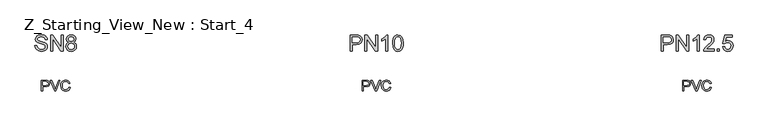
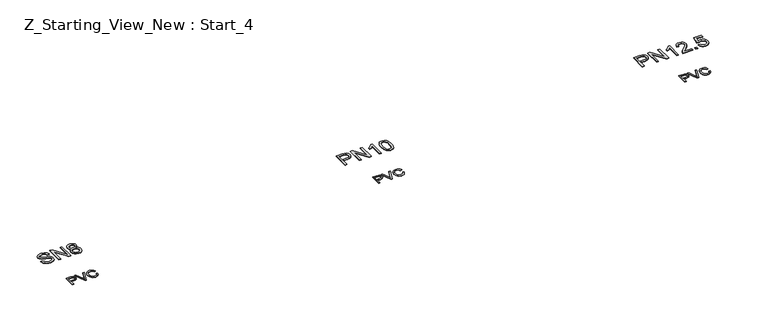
"""IFC4 building model written with IfcOpenShell, lengths in millimetres: pipe fitting geometry, Z_Starting_View_New : Start_4."""

import ifcopenshell
import ifcopenshell.guid

model = None  # the IFC model being written
_history = None  # IfcOwnerHistory: only IFC2X3 demands one
_inside = {}  # id of a spatial element -> (the spatial element, [elements in it])
_under = {}  # id of a project, library or spatial element -> (it, [spatial elements below it])
_declared = {}  # id of a project -> (the project, [libraries it declares])
_typed = {}  # id of a type object -> (the type object, [elements of that type])
_made_of = {}  # id of a material, layer set ... -> (it, [elements and type objects made of it])


def new_model(schema):
    """Start an empty IFC model of exactly this schema.

    Asked for "IFC4X3", IfcOpenShell would pick the latest addendum, in which some entities
    have other attributes; the version numbers below select the first issue.
    IFC2X3 requires an IfcOwnerHistory on every rooted entity: one is made here for all.
    """
    global model, _history
    if schema == "IFC4X3":
        model = ifcopenshell.file(schema_version=(4, 3, 0, 0))
    else:
        model = ifcopenshell.file(schema=schema)
    _inside.clear()
    _under.clear()
    _declared.clear()
    _typed.clear()
    _made_of.clear()
    _history = None
    if model.schema == "IFC2X3":
        org = make("IfcOrganization", Name="unknown")
        user = make(
            "IfcPersonAndOrganization",
            ThePerson=make("IfcPerson", FamilyName="unknown"),
            TheOrganization=org,
        )
        app = make(
            "IfcApplication",
            ApplicationDeveloper=org,
            Version="unknown",
            ApplicationFullName="unknown",
            ApplicationIdentifier="unknown",
        )
        _history = make(
            "IfcOwnerHistory",
            OwningUser=user,
            OwningApplication=app,
            ChangeAction="ADDED",
            CreationDate=0,
        )
    return model


def make(cls, **values):
    """One entity of the class cls with the attributes given. An attribute that is None is left unset."""
    return model.create_entity(
        cls, **{name: value for name, value in values.items() if value is not None}
    )


def rooted(cls, **values):
    """An entity with a GlobalId (a new one), such as an element, a storey or a relation."""
    return make(cls, GlobalId=ifcopenshell.guid.new(), OwnerHistory=_history, **values)


def si_unit(unit_type, name, prefix=None):
    """IfcSIUnit, for example si_unit("LENGTHUNIT", "METRE", prefix="MILLI")."""
    return make("IfcSIUnit", UnitType=unit_type, Prefix=prefix, Name=name)


def assignment(units):
    """IfcUnitAssignment: the units of a project."""
    return None if units is None else make("IfcUnitAssignment", Units=units)


def point(xyz):
    """IfcCartesianPoint."""
    return None if xyz is None else make("IfcCartesianPoint", Coordinates=xyz)


def direction(xyz):
    """IfcDirection."""
    return None if xyz is None else make("IfcDirection", DirectionRatios=xyz)


def frame(location, z_axis=None, x_axis=None):
    """IfcAxis2Placement3D, a coordinate frame: its origin and axes. An axis left out is left unset."""
    return make(
        "IfcAxis2Placement3D",
        Location=point(location),
        Axis=direction(z_axis),
        RefDirection=direction(x_axis),
    )


def origin():
    """The frame at (0, 0, 0) with its axes left unset."""
    return frame((0.0, 0.0, 0.0))


def origin_with_axes():
    """The frame at (0, 0, 0) with the z axis (0, 0, 1) and the x axis (1, 0, 0) written out."""
    return frame((0.0, 0.0, 0.0), z_axis=(0.0, 0.0, 1.0), x_axis=(1.0, 0.0, 0.0))


def place(relative_to, where):
    """IfcLocalPlacement: puts the frame where relative to a parent placement (None: the world)."""
    return make(
        "IfcLocalPlacement", PlacementRelTo=relative_to, RelativePlacement=where
    )


def context(
    kind, dimensions, precision=None, world=None, true_north=None, identifier=None
):
    """IfcGeometricRepresentationContext, for example the 3D "Model" context."""
    return make(
        "IfcGeometricRepresentationContext",
        ContextIdentifier=identifier,
        ContextType=kind,
        CoordinateSpaceDimension=dimensions,
        Precision=precision,
        WorldCoordinateSystem=world,
        TrueNorth=true_north,
    )


def project(units=None, contexts=None):
    """IfcProject with its units and contexts."""
    return rooted(
        "IfcProject",
        Name="project",
        RepresentationContexts=contexts,
        UnitsInContext=assignment(units),
    )


def spatial(cls, under=None, at=None, **own):
    """A site, building, storey or space (cls), placed at a placement, below another one or the project."""
    s = rooted(cls, ObjectPlacement=at, **own)
    if under is not None:
        _under.setdefault(under.id(), (under, []))[1].append(s)
    return s


def polyline(points):
    """IfcPolyline through the points."""
    return make("IfcPolyline", Points=[point(p) for p in points])


def outline(outer, holes=None, kind="AREA"):
    """IfcArbitraryClosedProfileDef: a profile drawn as a closed curve; with holes, ...WithVoids."""
    if holes is None:
        return make("IfcArbitraryClosedProfileDef", ProfileType=kind, OuterCurve=outer)
    return make(
        "IfcArbitraryProfileDefWithVoids",
        ProfileType=kind,
        OuterCurve=outer,
        InnerCurves=holes,
    )


def extrude(swept, where, along, depth):
    """IfcExtrudedAreaSolid: the profile swept, set in the frame where, extruded along a direction by depth."""
    return make(
        "IfcExtrudedAreaSolid",
        SweptArea=swept,
        Position=where,
        ExtrudedDirection=direction(along),
        Depth=depth,
    )


def shape(context_of_items, identifier, shape_type, items):
    """IfcShapeRepresentation: the items that make up one representation, for example the "Body"."""
    return make(
        "IfcShapeRepresentation",
        ContextOfItems=context_of_items,
        RepresentationIdentifier=identifier,
        RepresentationType=shape_type,
        Items=items,
    )


def source(mapping_origin, context_of_items, identifier, shape_type, items):
    """IfcRepresentationMap: a shape defined once, which mapped items show again and again."""
    return make(
        "IfcRepresentationMap",
        MappingOrigin=mapping_origin,
        MappedRepresentation=shape(context_of_items, identifier, shape_type, items),
    )


def transform(
    local_origin,
    x_axis=None,
    y_axis=None,
    z_axis=None,
    scale=None,
    scale2=None,
    scale3=None,
    uniform=True,
):
    """IfcCartesianTransformationOperator3D, or its non-uniform kind. x_axis, y_axis, z_axis: its Axis1, 2, 3."""
    if uniform:
        return make(
            "IfcCartesianTransformationOperator3D",
            Axis1=direction(x_axis),
            Axis2=direction(y_axis),
            LocalOrigin=point(local_origin),
            Scale=scale,
            Axis3=direction(z_axis),
        )
    return make(
        "IfcCartesianTransformationOperator3DnonUniform",
        Axis1=direction(x_axis),
        Axis2=direction(y_axis),
        LocalOrigin=point(local_origin),
        Scale=scale,
        Axis3=direction(z_axis),
        Scale2=scale2,
        Scale3=scale3,
    )


def mapped(mapping_source, mapping_target):
    """IfcMappedItem: shows the shape of a source again, moved by a transform."""
    return make(
        "IfcMappedItem", MappingSource=mapping_source, MappingTarget=mapping_target
    )


def made_of(thing, what):
    """Note that an element or type object is made of a material, layer set ...; save() writes the relation."""
    if what is not None:
        _made_of.setdefault(what.id(), (what, []))[1].append(thing)
    return thing


def element(
    cls,
    number,
    at=None,
    inside=None,
    cuts=None,
    type_object=None,
    material=None,
    context=None,
    identifier="Body",
    shape_type=None,
    held_by="IfcProductDefinitionShape",
    body=None,
    shapes=None,
    **own,
):
    """One element of the class cls, such as IfcWall. Its Tag is "e" and its number.

    at: its placement. inside: the storey or other place that contains it. cuts: it is an
    opening in that element (IfcRelVoidsElement). A single representation is given by context,
    identifier, shape_type and body (its items); several are given by shapes. held_by: the class
    of the entity that holds the representations. save() writes the other relations.
    """
    e = rooted(cls, Tag="e%d" % number, ObjectPlacement=at, **own)
    if body is not None:
        shapes = [shape(context, identifier, shape_type, body)]
    if shapes is not None:
        e.Representation = make(held_by, Representations=shapes)
    if inside is not None:
        _inside.setdefault(inside.id(), (inside, []))[1].append(e)
    if cuts is not None:
        rooted(
            "IfcRelVoidsElement", RelatingBuildingElement=cuts, RelatedOpeningElement=e
        )
    if type_object is not None:
        _typed.setdefault(type_object.id(), (type_object, []))[1].append(e)
    return made_of(e, material)


def aggregate(whole, parts):
    """IfcRelAggregates: a whole, such as a stair, and the parts it consists of."""
    return rooted("IfcRelAggregates", RelatingObject=whole, RelatedObjects=parts)


def save(model, path):
    """Write the relations noted so far, then the file.

    IfcRelAggregates (storeys below a building ...), IfcRelContainedInSpatialStructure (elements
    in a storey), IfcRelDefinesByType, IfcRelAssociatesMaterial and IfcRelDeclares: one each for
    every whole, place, type object, material and project.
    """
    for whole, parts in _under.values():
        aggregate(whole, parts)
    for where, things in _inside.values():
        rooted(
            "IfcRelContainedInSpatialStructure",
            RelatedElements=things,
            RelatingStructure=where,
        )
    for kind, things in _typed.values():
        rooted("IfcRelDefinesByType", RelatedObjects=things, RelatingType=kind)
    for what, things in _made_of.values():
        rooted("IfcRelAssociatesMaterial", RelatedObjects=things, RelatingMaterial=what)
    for by, libraries in _declared.values():
        rooted("IfcRelDeclares", RelatingContext=by, RelatedDefinitions=libraries)
    model.write(path)


def z_starting_view_new_start_4_c739c676(model_context):
    return source(origin(), model_context, "Body", "SweptSolid", [
        extrude(outline(polyline([(28403.3325071, 7445.7857303), (28403.3325071, 7596.4701955), (28459.1769939, 7596.4701955), (28481.691372, 7595.0354557), (28499.9935013, 7587.9905155), (28511.8576956, 7573.4223885), (28516.345856, 7552.8761791), (28513.315428, 7535.1166757), (28504.2241442, 7520.3186225), (28487.2233975, 7510.3306263), (28460.4645809, 7507.0012943), (28422.1680652, 7507.0012943), (28422.1680652, 7445.7857303), (28403.3325071, 7445.7857303)]), holes=[polyline([(28422.1680652, 7525.8368524), (28461.5682269, 7525.8368524), (28478.2700695, 7527.5658978), (28489.3065293, 7532.7530339), (28495.4593557, 7541.0763641), (28497.5102978, 7552.2139915), (28492.6726496, 7567.8121881), (28479.9623267, 7576.3470504), (28461.1267685, 7577.6346373), (28422.1680652, 7577.6346373), (28422.1680652, 7525.8368524)])]), origin_with_axes(), (0.0, 0.0, 1.0), 5.0),
        extrude(outline(polyline([(28542.2447484, 7445.7857303), (28542.2447484, 7596.4701955), (28562.4046818, 7596.4701955), (28641.1314287, 7477.0924881), (28641.1314287, 7596.4701955), (28659.9669869, 7596.4701955), (28659.9669869, 7445.7857303), (28639.8070536, 7445.7857303), (28561.0803066, 7565.2002259), (28561.0803066, 7445.7857303), (28542.2447484, 7445.7857303)])), origin_with_axes(), (0.0, 0.0, 1.0), 5.0),
        extrude(outline(polyline([(28756.4992224, 7445.7857303), (28737.6636643, 7445.7857303), (28737.6636643, 7563.2136631), (28719.8213875, 7550.5033402), (28699.992548, 7540.9935906), (28699.992548, 7558.7990792), (28727.6020917, 7576.4206268), (28744.3591166, 7596.4701955), (28756.4992224, 7596.4701955), (28756.4992224, 7445.7857303)])), origin_with_axes(), (0.0, 0.0, 1.0), 5.0),
        extrude(outline(polyline([(28897.7659086, 7464.6212884), (28897.7659086, 7445.7857303), (28798.8792283, 7445.7857303), (28800.9025792, 7458.7719647), (28812.3437093, 7478.7663511), (28835.9249452, 7500.6001475), (28868.4457136, 7531.9804817), (28874.5433576, 7542.7962124), (28876.5759057, 7553.3176375), (28874.6583208, 7562.7492121), (28868.9055661, 7570.5896971), (28860.0626026, 7575.8734023), (28848.8743914, 7577.6346373), (28837.1251602, 7575.914789), (28827.9970882, 7570.755244), (28822.1063777, 7562.5606726), (28820.0692312, 7551.7357449), (28801.233673, 7554.0901896), (28805.8000083, 7572.3095455), (28815.6730414, 7585.6176766), (28830.3377374, 7593.7570658), (28849.2790616, 7596.4701955), (28868.3583416, 7593.4535631), (28882.9954465, 7584.403666), (28892.3074595, 7570.8840027), (28895.4114638, 7554.4580716), (28892.0637377, 7536.5974008), (28880.9353073, 7518.1297246), (28853.951163, 7492.3228027), (28832.2829134, 7474.2046144), (28823.7848393, 7464.6212884), (28897.7659086, 7464.6212884)])), origin_with_axes(), (0.0, 0.0, 1.0), 5.0),
        extrude(outline(polyline([(28926.0192458, 7445.7857303), (28926.0192458, 7464.6212884), (28944.854804, 7464.6212884), (28944.854804, 7445.7857303), (28926.0192458, 7445.7857303)])), origin_with_axes(), (0.0, 0.0, 1.0), 5.0),
        extrude(outline(polyline([(28975.462586, 7485.8112913), (28994.2981441, 7488.1657361), (28997.7562349, 7476.8579633), (29003.7894996, 7468.7599609), (29012.3703471, 7463.890123), (29023.4711863, 7462.2668436), (29036.9724556, 7464.5247194), (29047.0892104, 7471.2983466), (29053.4075837, 7481.8059761), (29055.5137081, 7495.2658586), (29053.5409409, 7507.9393934), (29047.6226393, 7517.6330839), (29037.7128181, 7523.7859103), (29023.7654919, 7525.8368524), (29007.2291962, 7522.5627027), (28996.6525889, 7514.0646286), (28977.8170307, 7516.4190733), (28994.2981441, 7594.1157507), (29067.285932, 7594.1157507), (29067.285932, 7575.2801926), (29009.5284587, 7575.2801926), (29001.471843, 7533.7831035), (29014.927127, 7541.9500838), (29029.0262045, 7544.6724106), (29046.6247594, 7541.2970933), (29061.2342731, 7531.1711413), (29071.070518, 7515.7384916), (29074.3492663, 7496.443081), (29071.3970133, 7477.6075228), (29062.5402542, 7461.4942915), (29045.5808942, 7447.947037), (29023.3976099, 7443.4312855), (29004.8977441, 7446.3329547), (28990.1594717, 7455.0379624), (28980.0565124, 7468.5346331), (28975.462586, 7485.8112913)])), origin_with_axes(), (0.0, 0.0, 1.0), 5.0),
        extrude(outline(polyline([(25490.4469635, 7445.7857303), (25490.4469635, 7596.4701955), (25546.2914504, 7596.4701955), (25568.8058285, 7595.0354557), (25587.1079578, 7587.9905155), (25598.9721521, 7573.4223885), (25603.4603124, 7552.8761791), (25600.4298845, 7535.1166757), (25591.3386007, 7520.3186225), (25574.337854, 7510.3306263), (25547.5790374, 7507.0012943), (25509.2825217, 7507.0012943), (25509.2825217, 7445.7857303), (25490.4469635, 7445.7857303)]), holes=[polyline([(25509.2825217, 7525.8368524), (25548.6826834, 7525.8368524), (25565.3845259, 7527.5658978), (25576.4209858, 7532.7530339), (25582.5738122, 7541.0763641), (25584.6247543, 7552.2139915), (25579.787106, 7567.8121881), (25567.0767831, 7576.3470504), (25548.241225, 7577.6346373), (25509.2825217, 7577.6346373), (25509.2825217, 7525.8368524)])]), origin_with_axes(), (0.0, 0.0, 1.0), 5.0),
        extrude(outline(polyline([(25629.3592049, 7445.7857303), (25629.3592049, 7596.4701955), (25649.5191382, 7596.4701955), (25728.2458852, 7477.0924881), (25728.2458852, 7596.4701955), (25747.0814434, 7596.4701955), (25747.0814434, 7445.7857303), (25726.92151, 7445.7857303), (25648.1947631, 7565.2002259), (25648.1947631, 7445.7857303), (25629.3592049, 7445.7857303)])), origin_with_axes(), (0.0, 0.0, 1.0), 5.0),
        extrude(outline(polyline([(25843.6136789, 7445.7857303), (25824.7781207, 7445.7857303), (25824.7781207, 7563.2136631), (25806.935844, 7550.5033402), (25787.1070044, 7540.9935906), (25787.1070044, 7558.7990792), (25814.7165482, 7576.4206268), (25831.473573, 7596.4701955), (25843.6136789, 7596.4701955), (25843.6136789, 7445.7857303)])), origin_with_axes(), (0.0, 0.0, 1.0), 5.0),
        extrude(outline(polyline([(25888.3481295, 7519.9139523), (25889.7322855, 7544.0332156), (25893.8847535, 7563.2688454), (25900.7641468, 7577.9151474), (25910.3290787, 7588.266427), (25922.648527, 7594.4192534), (25937.7914697, 7596.4701955), (25959.790813, 7591.6141532), (25974.9843394, 7577.6162432), (25983.8135073, 7555.3225943), (25987.2348098, 7519.9139523), (25985.8644494, 7495.9326447), (25981.7533681, 7476.7430002), (25974.9153615, 7462.0829027), (25965.3642252, 7451.6902363), (25953.0171857, 7445.4960232), (25937.7914697, 7443.4312855), (25918.2201475, 7447.0181349), (25903.3577149, 7457.7786833), (25892.1005259, 7483.2637085), (25888.3481295, 7519.9139523)]), holes=[polyline([(25907.1836877, 7519.9507405), (25909.3909796, 7490.3224443), (25916.0128555, 7473.1745448), (25925.872093, 7464.9937689), (25937.7914697, 7462.2668436), (25949.7108463, 7465.002966), (25959.5700838, 7473.211333), (25966.1919597, 7490.3684296), (25968.3992517, 7519.9507405), (25966.2655361, 7548.9122506), (25959.8643894, 7566.1935073), (25950.023546, 7574.7743548), (25937.5707405, 7577.6346373), (25925.7801225, 7575.1146457), (25916.3071611, 7567.5546707), (25909.464556, 7549.1973591), (25907.1836877, 7519.9507405)])]), origin_with_axes(), (0.0, 0.0, 1.0), 5.0),
        extrude(outline(polyline([(22541.0675261, 7497.5835152), (22559.9030842, 7497.5835152), (22565.9731371, 7478.7295629), (22580.7987815, 7466.8101863), (22603.386736, 7462.2668436), (22623.0684228, 7465.7065403), (22635.7787457, 7475.1611076), (22639.9542064, 7487.7978541), (22636.8272094, 7499.5516839), (22624.024916, 7508.1049402), (22596.5993132, 7515.2970333), (22567.0767831, 7524.5860536), (22551.0555222, 7538.6023576), (22545.7764156, 7557.3275512), (22547.4088919, 7568.3594125), (22552.306321, 7578.6463128), (22560.3399441, 7587.3651161), (22571.3810025, 7593.6926864), (22599.3032459, 7598.8246403), (22629.1016875, 7593.4535631), (22640.5244235, 7586.8224902), (22648.9673152, 7577.6714255), (22654.3108012, 7566.5705863), (22656.4353197, 7554.0901896), (22637.5997616, 7554.0901896), (22634.1416708, 7565.3289846), (22626.9311837, 7573.4407826), (22615.6647976, 7578.3520072), (22600.0390099, 7579.9890821), (22584.0453401, 7578.3704013), (22573.0732596, 7573.514359), (22566.7272952, 7566.3682512), (22564.6119737, 7557.8793742), (22566.1110929, 7550.6412959), (22570.6084503, 7544.8195634), (22601.3633851, 7534.2981383), (22634.6934938, 7524.843571), (22645.4310496, 7518.010163), (22652.9220467, 7509.5764682), (22657.3228351, 7499.6344573), (22658.7897645, 7488.2761007), (22657.1021059, 7476.6648252), (22652.0391299, 7465.7433285), (22643.8077703, 7456.3439435), (22632.6149606, 7449.2990033), (22619.1550781, 7444.898215), (22604.1225, 7443.4312855), (22585.6686194, 7445.0131781), (22570.4796916, 7449.7588558), (22558.3809725, 7457.6867128), (22549.1977181, 7468.8151432), (22543.3024092, 7482.3715947), (22541.0675261, 7497.5835152)])), origin_with_axes(), (0.0, 0.0, 1.0), 5.0),
        extrude(outline(polyline([(22687.0431017, 7445.7857303), (22687.0431017, 7596.4701955), (22707.2030351, 7596.4701955), (22785.929782, 7477.0924881), (22785.929782, 7596.4701955), (22804.7653402, 7596.4701955), (22804.7653402, 7445.7857303), (22784.6054069, 7445.7857303), (22705.8786599, 7565.2002259), (22705.8786599, 7445.7857303), (22687.0431017, 7445.7857303)])), origin_with_axes(), (0.0, 0.0, 1.0), 5.0),
        extrude(outline(polyline([(22858.1082295, 7528.7799084), (22840.9465344, 7540.4785558), (22835.3731222, 7558.6887146), (22838.4081487, 7573.4131914), (22847.513228, 7585.5808884), (22861.6674878, 7593.7478687), (22879.8500554, 7596.4701955), (22898.1429876, 7593.6834894), (22912.4811884, 7585.323371), (22921.7518147, 7572.962536), (22924.8420234, 7558.1736798), (22919.3421876, 7540.4233735), (22902.6587391, 7528.7799084), (22914.2516205, 7522.8064245), (22922.6899138, 7514.0094463), (22927.8356632, 7502.812038), (22929.550913, 7489.6372641), (22926.1480045, 7471.6294404), (22915.9392791, 7456.7486137), (22900.1755356, 7446.7606176), (22880.1075728, 7443.4312855), (22860.03961, 7446.7744131), (22844.2758665, 7456.803796), (22834.0671411, 7471.827177), (22830.6642327, 7490.1522989), (22832.4484603, 7503.8375091), (22837.8011434, 7515.0946982), (22846.4463703, 7523.5375899), (22858.1082295, 7528.7799084)]), holes=[polyline([(22854.2086804, 7558.1368916), (22855.8779449, 7549.914729), (22860.8857386, 7543.3480354), (22869.0849085, 7539.043816), (22880.328302, 7537.6090763), (22891.3095796, 7539.034619), (22899.3845894, 7543.3112472), (22904.3509963, 7549.6572116), (22906.0064653, 7557.290763), (22904.295814, 7565.2140215), (22899.1638602, 7571.7669195), (22890.9784858, 7576.1677079), (22880.1075728, 7577.6346373), (22869.167682, 7576.1998976), (22860.9961032, 7571.8956782), (22855.9055361, 7565.586502), (22854.2086804, 7558.1368916)]), polyline([(22849.4997908, 7490.8144865), (22852.6451819, 7476.6326356), (22863.7736122, 7466.01924), (22880.2547256, 7462.2668436), (22893.0754131, 7464.2396108), (22902.6955273, 7470.1579124), (22908.7103979, 7479.1204376), (22910.7153548, 7490.2258753), (22908.6460186, 7501.5198525), (22902.4380099, 7510.6801142), (22892.5971665, 7516.7501671), (22879.6293262, 7518.7735181), (22866.9879812, 7516.7777583), (22857.464436, 7510.7904788), (22851.4909521, 7501.8049611), (22849.4997908, 7490.8144865)])]), origin_with_axes(), (0.0, 0.0, 1.0), 5.0),
        extrude(outline(polyline([(25602.2830901, 7070.7857303), (25602.2830901, 7171.2420404), (25639.512748, 7171.2420404), (25654.5223334, 7170.2855472), (25666.7237529, 7165.5889204), (25674.6332158, 7155.8768358), (25677.6253227, 7142.1793628), (25675.6050374, 7130.3396939), (25669.5441815, 7120.4743251), (25658.2103504, 7113.815661), (25640.3711393, 7111.5961063), (25614.8401288, 7111.5961063), (25614.8401288, 7070.7857303), (25602.2830901, 7070.7857303)]), holes=[polyline([(25614.8401288, 7124.153145), (25641.1069033, 7124.153145), (25659.5991049, 7128.7639327), (25663.7009891, 7134.3128195), (25665.0682839, 7141.7379044), (25661.8431851, 7152.1367021), (25653.3696365, 7157.8266103), (25640.8125977, 7158.6850016), (25614.8401288, 7158.6850016), (25614.8401288, 7124.153145)])]), origin_with_axes(), (0.0, 0.0, 1.0), 5.0),
        extrude(outline(polyline([(25724.5670652, 7070.7857303), (25684.5905551, 7171.2420404), (25698.0305107, 7171.2420404), (25724.7877944, 7098.8673892), (25730.2079225, 7082.5579541), (25735.5544742, 7098.8673892), (25762.3853344, 7171.2420404), (25775.8252899, 7171.2420404), (25737.5410369, 7070.7857303), (25724.5670652, 7070.7857303)])), origin_with_axes(), (0.0, 0.0, 1.0), 5.0),
        extrude(outline(polyline([(25858.132755, 7106.4948093), (25870.6897937, 7103.2574477), (25864.8956523, 7088.6249413), (25855.8028357, 7077.9349037), (25843.8589336, 7071.3958012), (25829.5115357, 7069.2161004), (25814.9464744, 7070.865438), (25803.3796513, 7075.8134509), (25794.5136953, 7083.8884607), (25788.0512349, 7094.9187891), (25782.7905224, 7121.7741748), (25784.2773788, 7136.4220096), (25788.7379479, 7149.0710188), (25795.939238, 7159.3195981), (25805.648257, 7166.7661428), (25817.1629634, 7171.3002884), (25829.7813159, 7172.8116703), (25843.5492995, 7170.8557643), (25854.9321816, 7164.9880465), (25863.5743428, 7155.5702674), (25869.1201639, 7142.9641777), (25856.5631251, 7139.9720708), (25846.2624293, 7155.4108519), (25829.2908065, 7160.2546315), (25809.645908, 7154.8835544), (25798.5481345, 7140.4625802), (25795.3475611, 7121.7987003), (25799.1367457, 7100.1672389), (25810.933495, 7086.3471387), (25828.260737, 7081.7731392), (25838.7423081, 7083.3305063), (25847.4764398, 7088.0026076), (25854.0707246, 7095.7403923), (25858.132755, 7106.4948093)])), origin_with_axes(), (0.0, 0.0, 1.0), 5.0),
        extrude(outline(polyline([(28602.2830901, 7070.7857303), (28602.2830901, 7171.2420404), (28639.512748, 7171.2420404), (28654.5223334, 7170.2855472), (28666.7237529, 7165.5889204), (28674.6332158, 7155.8768358), (28677.6253227, 7142.1793628), (28675.6050374, 7130.3396939), (28669.5441815, 7120.4743251), (28658.2103504, 7113.815661), (28640.3711393, 7111.5961063), (28614.8401288, 7111.5961063), (28614.8401288, 7070.7857303), (28602.2830901, 7070.7857303)]), holes=[polyline([(28614.8401288, 7124.153145), (28641.1069033, 7124.153145), (28659.5991049, 7128.7639327), (28663.7009891, 7134.3128195), (28665.0682839, 7141.7379044), (28661.8431851, 7152.1367021), (28653.3696365, 7157.8266103), (28640.8125977, 7158.6850016), (28614.8401288, 7158.6850016), (28614.8401288, 7124.153145)])]), origin_with_axes(), (0.0, 0.0, 1.0), 5.0),
        extrude(outline(polyline([(28724.5670652, 7070.7857303), (28684.5905551, 7171.2420404), (28698.0305107, 7171.2420404), (28724.7877944, 7098.8673892), (28730.2079225, 7082.5579541), (28735.5544742, 7098.8673892), (28762.3853344, 7171.2420404), (28775.8252899, 7171.2420404), (28737.5410369, 7070.7857303), (28724.5670652, 7070.7857303)])), origin_with_axes(), (0.0, 0.0, 1.0), 5.0),
        extrude(outline(polyline([(28858.132755, 7106.4948093), (28870.6897937, 7103.2574477), (28864.8956523, 7088.6249413), (28855.8028357, 7077.9349037), (28843.8589336, 7071.3958012), (28829.5115357, 7069.2161004), (28814.9464744, 7070.865438), (28803.3796514, 7075.8134509), (28794.5136953, 7083.8884607), (28788.0512349, 7094.9187891), (28782.7905224, 7121.7741748), (28784.2773788, 7136.4220096), (28788.7379479, 7149.0710188), (28795.939238, 7159.3195981), (28805.648257, 7166.7661428), (28817.1629634, 7171.3002884), (28829.7813159, 7172.8116703), (28843.5492995, 7170.8557643), (28854.9321816, 7164.9880465), (28863.5743428, 7155.5702674), (28869.1201639, 7142.9641777), (28856.5631251, 7139.9720708), (28846.2624293, 7155.4108519), (28829.2908065, 7160.2546315), (28809.645908, 7154.8835544), (28798.5481345, 7140.4625802), (28795.3475611, 7121.7987003), (28799.1367457, 7100.1672389), (28810.933495, 7086.3471387), (28828.260737, 7081.7731392), (28838.7423081, 7083.3305063), (28847.4764398, 7088.0026076), (28854.0707246, 7095.7403923), (28858.132755, 7106.4948093)])), origin_with_axes(), (0.0, 0.0, 1.0), 5.0),
        extrude(outline(polyline([(22602.2830901, 7070.7857303), (22602.2830901, 7171.2420404), (22639.512748, 7171.2420404), (22654.5223334, 7170.2855472), (22666.7237529, 7165.5889204), (22674.6332158, 7155.8768358), (22677.6253227, 7142.1793628), (22675.6050374, 7130.3396939), (22669.5441815, 7120.4743251), (22658.2103504, 7113.815661), (22640.3711393, 7111.5961063), (22614.8401288, 7111.5961063), (22614.8401288, 7070.7857303), (22602.2830901, 7070.7857303)]), holes=[polyline([(22614.8401288, 7124.153145), (22641.1069033, 7124.153145), (22659.5991049, 7128.7639327), (22663.7009891, 7134.3128195), (22665.0682839, 7141.7379044), (22661.8431851, 7152.1367021), (22653.3696365, 7157.8266103), (22640.8125977, 7158.6850016), (22614.8401288, 7158.6850016), (22614.8401288, 7124.153145)])]), origin_with_axes(), (0.0, 0.0, 1.0), 5.0),
        extrude(outline(polyline([(22724.5670652, 7070.7857303), (22684.5905551, 7171.2420404), (22698.0305107, 7171.2420404), (22724.7877944, 7098.8673892), (22730.2079225, 7082.5579541), (22735.5544742, 7098.8673892), (22762.3853344, 7171.2420404), (22775.8252899, 7171.2420404), (22737.5410369, 7070.7857303), (22724.5670652, 7070.7857303)])), origin_with_axes(), (0.0, 0.0, 1.0), 5.0),
        extrude(outline(polyline([(22858.132755, 7106.4948093), (22870.6897937, 7103.2574477), (22864.8956523, 7088.6249413), (22855.8028357, 7077.9349037), (22843.8589336, 7071.3958012), (22829.5115357, 7069.2161004), (22814.9464744, 7070.865438), (22803.3796513, 7075.8134509), (22794.5136953, 7083.8884607), (22788.0512349, 7094.9187891), (22782.7905224, 7121.7741748), (22784.2773788, 7136.4220096), (22788.7379479, 7149.0710188), (22795.939238, 7159.3195981), (22805.648257, 7166.7661428), (22817.1629634, 7171.3002884), (22829.7813159, 7172.8116703), (22843.5492995, 7170.8557643), (22854.9321816, 7164.9880465), (22863.5743428, 7155.5702674), (22869.1201639, 7142.9641777), (22856.5631251, 7139.9720708), (22846.2624293, 7155.4108519), (22829.2908065, 7160.2546315), (22809.645908, 7154.8835544), (22798.5481345, 7140.4625802), (22795.3475611, 7121.7987003), (22799.1367457, 7100.1672389), (22810.933495, 7086.3471387), (22828.260737, 7081.7731392), (22838.7423081, 7083.3305063), (22847.4764398, 7088.0026076), (22854.0707246, 7095.7403923), (22858.132755, 7106.4948093)])), origin_with_axes(), (0.0, 0.0, 1.0), 5.0),
    ])


if __name__ == "__main__":
    model = new_model("IFC4")
    model_context = context("Model", 3, world=origin())
    ifc_project = project(units=[si_unit("LENGTHUNIT", "METRE", prefix="MILLI")], contexts=[model_context])
    site = spatial("IfcSite", under=ifc_project)
    building = spatial("IfcBuilding", under=site)
    placement = place(None, origin())
    z_starting_view_new_start_4_shape = z_starting_view_new_start_4_c739c676(model_context)
    element("IfcPipeFitting", 1, ObjectType="Z_Starting_View_New : Start_4", at=placement, inside=building, context=model_context, shape_type="MappedRepresentation", body=[
        mapped(z_starting_view_new_start_4_shape, transform((0.0, 0.0, 0.0), x_axis=(1.0, 0.0, 0.0), y_axis=(0.0, 1.0, 0.0), z_axis=(0.0, 0.0, 1.0))),
    ])
    save(model, "model.ifc")
